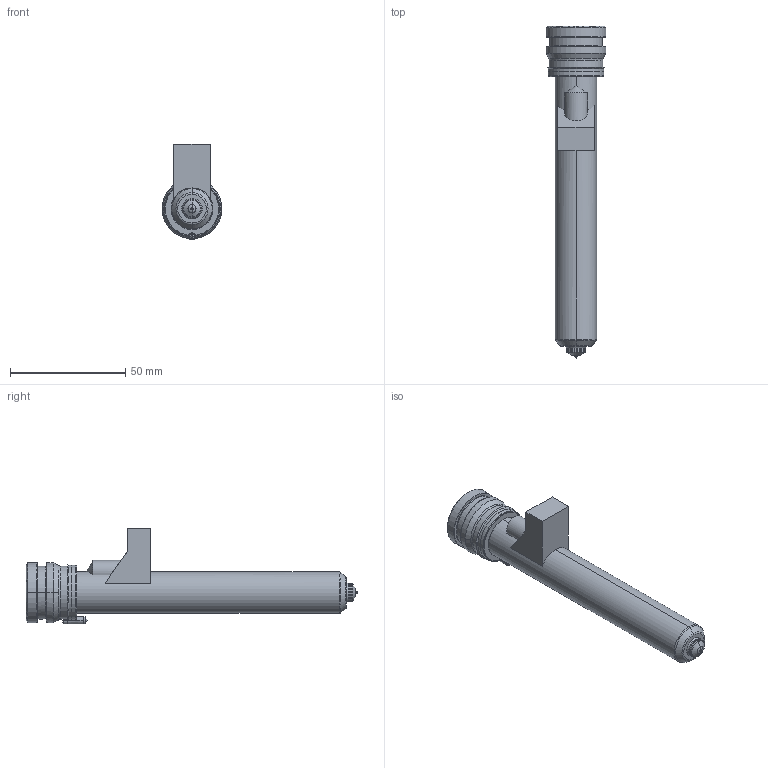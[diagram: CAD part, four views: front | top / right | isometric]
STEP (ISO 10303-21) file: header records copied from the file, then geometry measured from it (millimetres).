
FILE_DESCRIPTION((''),'2;1');
FILE_NAME('MPN-08-24-VSA8-126-M','2026-02-05T13:34:34',('UPTIO'),('Thermoplay S.p.A.'),'CREO PARAMETRIC BY PTC INC, 2023494','CREO PARAMETRIC BY PTC INC, 2023494','');
FILE_SCHEMA(('CONFIG_CONTROL_DESIGN','SHAPE_APPEARANCE_LAYERS_GROUPS'));
Length unit declared in the file: millimetre
Products named in the file (1): MPN-08-24-VSA8-126-M
Bounding box: 26 x 144 x 41.5 mm (x, y, z)
Volume: 27919.2 mm3; surface area: 36933.8 mm2
Topology: 2 solids, 3 shells, 527 faces, 1374 edges, 846 vertices
Faces by surface type: cylinder 176, plane 143, bspline 75, torus 60, cone 58, sphere 9, extrusion 6
Entity records: 27289 total; most frequent: CARTESIAN_POINT 11810, ORIENTED_EDGE 2730, DIRECTION 2497, EDGE_CURVE 1365, AXIS2_PLACEMENT_3D 975, VERTEX_POINT 846, EDGE_LOOP 557, VECTOR 547
